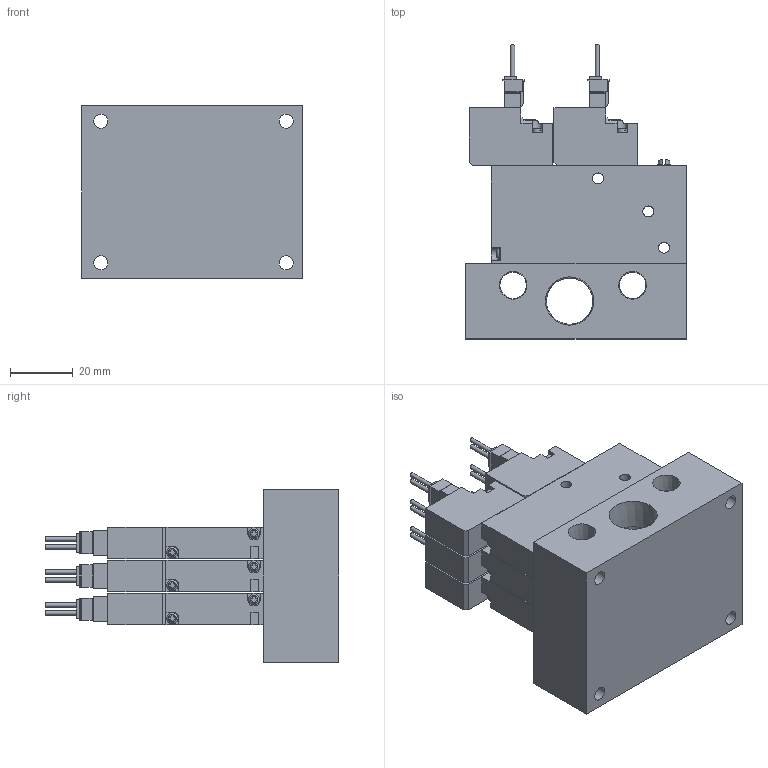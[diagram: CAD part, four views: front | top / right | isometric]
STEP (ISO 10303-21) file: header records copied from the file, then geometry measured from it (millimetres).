
FILE_DESCRIPTION(('STEP AP203'),'1');
FILE_NAME('BMPV42MZZ5A(B)303.stp','2025-04-30T01:26:19',(' '),(' '),'Spatial InterOp 3D',' ',' ');
FILE_SCHEMA(('CONFIG_CONTROL_DESIGN'));
Length unit declared in the file: millimetre
Products named in the file (4): BMPV42MZZ5A(B)303; VACUUM VALVE FUNCTION MPV42-A; UNIT-MPV42; MPV42-M30R-1
Assembly tree (10 placements, depth 2):
  BMPV42MZZ5A(B)303
    VACUUM VALVE FUNCTION MPV42-A  x6
    UNIT-MPV42  x3
    MPV42-M30R-1
Bounding box: 70 x 93.45 x 55 mm (x, y, z)
Volume: 159712.2 mm3; surface area: 52089.4 mm2
Topology: 10 solids, 10 shells, 802 faces, 2161 edges, 1439 vertices
Faces by surface type: plane 648, cylinder 127, cone 15, sphere 6, torus 6
Full cylindrical faces by diameter (mm): 1.4 x12, 1.8 x3, 2.2 x6, 3 x12, 3.5 x21, 4.134 x3, 4.5 x4, 5 x3, 8.441 x2, 14.744 x1
Entity records: 5676 total; most frequent: CARTESIAN_POINT 1039, DIRECTION 906, ORIENTED_EDGE 860, EDGE_CURVE 430, LINE 322, VECTOR 322, VERTEX_POINT 305, AXIS2_PLACEMENT_3D 292
